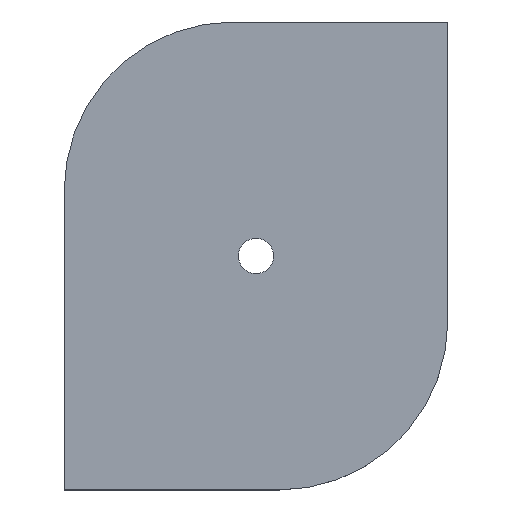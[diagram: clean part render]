
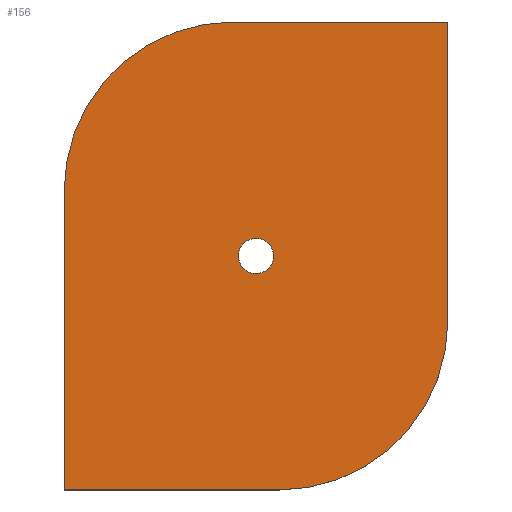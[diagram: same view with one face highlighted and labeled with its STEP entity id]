
A CAD part, top view. The second image highlights one B-rep face of the part: STEP entity #156.
In plain terms, the highlighted planar face has unit normal (0, 0, 1).
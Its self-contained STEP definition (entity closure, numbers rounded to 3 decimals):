
#63=CARTESIAN_POINT('Vertex',(41.825,57.508,6.)) ;
#77=CARTESIAN_POINT('Vertex',(49.175,53.492,6.)) ;
#80=CARTESIAN_POINT('Axis2P3D Location',(45.5,55.5,6.)) ;
#92=CARTESIAN_POINT('Axis2P3D Location',(0.,0.,6.)) ;
#97=CARTESIAN_POINT('Line Origine',(0.,35.5,6.)) ;
#101=CARTESIAN_POINT('Vertex',(0.,71.,6.)) ;
#103=CARTESIAN_POINT('Vertex',(0.,0.,6.)) ;
#106=CARTESIAN_POINT('Line Origine',(25.5,0.,6.)) ;
#110=CARTESIAN_POINT('Vertex',(51.,0.,6.)) ;
#113=CARTESIAN_POINT('Axis2P3D Location',(51.,40.,6.)) ;
#117=CARTESIAN_POINT('Vertex',(91.,40.,6.)) ;
#120=CARTESIAN_POINT('Line Origine',(91.,75.5,6.)) ;
#124=CARTESIAN_POINT('Vertex',(91.,111.,6.)) ;
#127=CARTESIAN_POINT('Line Origine',(65.5,111.,6.)) ;
#131=CARTESIAN_POINT('Vertex',(40.,111.,6.)) ;
#134=CARTESIAN_POINT('Axis2P3D Location',(40.,71.,6.)) ;
#147=CARTESIAN_POINT('Axis2P3D Location',(45.5,55.5,6.)) ;
#81=DIRECTION('Axis2P3D Direction',(0.,-0.,-1.)) ;
#93=DIRECTION('Axis2P3D Direction',(0.,0.,1.)) ;
#94=DIRECTION('Axis2P3D XDirection',(1.,0.,0.)) ;
#98=DIRECTION('Vector Direction',(0.,-1.,0.)) ;
#107=DIRECTION('Vector Direction',(1.,0.,0.)) ;
#114=DIRECTION('Axis2P3D Direction',(0.,0.,1.)) ;
#121=DIRECTION('Vector Direction',(0.,1.,0.)) ;
#128=DIRECTION('Vector Direction',(-1.,0.,0.)) ;
#135=DIRECTION('Axis2P3D Direction',(0.,0.,1.)) ;
#148=DIRECTION('Axis2P3D Direction',(0.,0.,1.)) ;
#82=AXIS2_PLACEMENT_3D('Circle Axis2P3D',#80,#81,$) ;
#95=AXIS2_PLACEMENT_3D('Plane Axis2P3D',#92,#93,#94) ;
#115=AXIS2_PLACEMENT_3D('Circle Axis2P3D',#113,#114,$) ;
#136=AXIS2_PLACEMENT_3D('Circle Axis2P3D',#134,#135,$) ;
#149=AXIS2_PLACEMENT_3D('Circle Axis2P3D',#147,#148,$) ;
#140=ORIENTED_EDGE('',*,*,#105,.T.) ;
#141=ORIENTED_EDGE('',*,*,#112,.T.) ;
#142=ORIENTED_EDGE('',*,*,#119,.F.) ;
#143=ORIENTED_EDGE('',*,*,#126,.T.) ;
#144=ORIENTED_EDGE('',*,*,#133,.T.) ;
#145=ORIENTED_EDGE('',*,*,#138,.F.) ;
#153=ORIENTED_EDGE('',*,*,#151,.F.) ;
#154=ORIENTED_EDGE('',*,*,#84,.F.) ;
#155=FACE_BOUND('',#152,.T.) ;
#99=VECTOR('Line Direction',#98,1.) ;
#108=VECTOR('Line Direction',#107,1.) ;
#122=VECTOR('Line Direction',#121,1.) ;
#129=VECTOR('Line Direction',#128,1.) ;
#156=ADVANCED_FACE('PartBody',(#146,#155),#96,.T.) ;
#83=CIRCLE('generated circle',#82,4.188) ;
#116=CIRCLE('generated circle',#115,40.) ;
#137=CIRCLE('generated circle',#136,40.) ;
#150=CIRCLE('generated circle',#149,4.188) ;
#84=EDGE_CURVE('',#78,#64,#83,.F.) ;
#105=EDGE_CURVE('',#102,#104,#100,.T.) ;
#112=EDGE_CURVE('',#104,#111,#109,.T.) ;
#119=EDGE_CURVE('',#118,#111,#116,.F.) ;
#126=EDGE_CURVE('',#118,#125,#123,.T.) ;
#133=EDGE_CURVE('',#125,#132,#130,.T.) ;
#138=EDGE_CURVE('',#102,#132,#137,.F.) ;
#151=EDGE_CURVE('',#64,#78,#150,.T.) ;
#139=EDGE_LOOP('',(#140,#141,#142,#143,#144,#145)) ;
#152=EDGE_LOOP('',(#153,#154)) ;
#146=FACE_OUTER_BOUND('',#139,.T.) ;
#100=LINE('Line',#97,#99) ;
#109=LINE('Line',#106,#108) ;
#123=LINE('Line',#120,#122) ;
#130=LINE('Line',#127,#129) ;
#96=PLANE('',#95) ;
#64=VERTEX_POINT('',#63) ;
#78=VERTEX_POINT('',#77) ;
#102=VERTEX_POINT('',#101) ;
#104=VERTEX_POINT('',#103) ;
#111=VERTEX_POINT('',#110) ;
#118=VERTEX_POINT('',#117) ;
#125=VERTEX_POINT('',#124) ;
#132=VERTEX_POINT('',#131) ;
